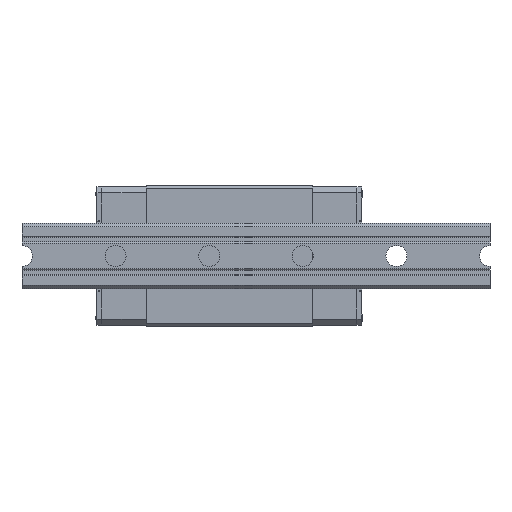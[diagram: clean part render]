
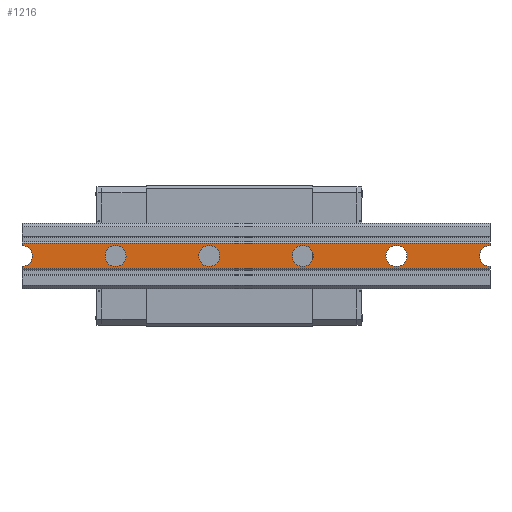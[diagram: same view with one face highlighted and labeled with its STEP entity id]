
A CAD part, front view. The second image highlights one B-rep face of the part: STEP entity #1216.
In plain terms, the highlighted planar face has unit normal (0, -1, 0).
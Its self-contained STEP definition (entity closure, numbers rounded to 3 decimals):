
#1216 = ADVANCED_FACE( '', ( #2585, #2586, #2587, #2588, #2589 ), #2590, .F. );
#2585 = FACE_BOUND( '', #4220, .T. );
#2586 = FACE_BOUND( '', #4221, .T. );
#2587 = FACE_BOUND( '', #4222, .T. );
#2588 = FACE_BOUND( '', #4223, .T. );
#2589 = FACE_OUTER_BOUND( '', #4224, .T. );
#2590 = PLANE( '', #4225 );
#4220 = EDGE_LOOP( '', ( #7210 ) );
#4221 = EDGE_LOOP( '', ( #7211 ) );
#4222 = EDGE_LOOP( '', ( #7212 ) );
#4223 = EDGE_LOOP( '', ( #7213 ) );
#4224 = EDGE_LOOP( '', ( #7214, #7215, #7216, #7217, #7218, #7219, #7220, #7221 ) );
#4225 = AXIS2_PLACEMENT_3D( '', #7222, #7223, #7224 );
#7210 = ORIENTED_EDGE( '', *, *, #10742, .F. );
#7211 = ORIENTED_EDGE( '', *, *, #10336, .F. );
#7212 = ORIENTED_EDGE( '', *, *, #10743, .F. );
#7213 = ORIENTED_EDGE( '', *, *, #10744, .F. );
#7214 = ORIENTED_EDGE( '', *, *, #10745, .F. );
#7215 = ORIENTED_EDGE( '', *, *, #9665, .F. );
#7216 = ORIENTED_EDGE( '', *, *, #10042, .T. );
#7217 = ORIENTED_EDGE( '', *, *, #10746, .T. );
#7218 = ORIENTED_EDGE( '', *, *, #9676, .F. );
#7219 = ORIENTED_EDGE( '', *, *, #9775, .T. );
#7220 = ORIENTED_EDGE( '', *, *, #10747, .F. );
#7221 = ORIENTED_EDGE( '', *, *, #9682, .F. );
#7222 = CARTESIAN_POINT( '', ( 100., 0., 5.5 ) );
#7223 = DIRECTION( '', ( 0., 1., 0. ) );
#7224 = DIRECTION( '', ( 0., 0., 1. ) );
#9665 = EDGE_CURVE( '', #11538, #11540, #11541, .T. );
#9676 = EDGE_CURVE( '', #11558, #11553, #11560, .T. );
#9682 = EDGE_CURVE( '', #11569, #11571, #11572, .T. );
#9775 = EDGE_CURVE( '', #11558, #11739, #11741, .T. );
#10042 = EDGE_CURVE( '', #11538, #12194, #12196, .T. );
#10336 = EDGE_CURVE( '', #12674, #12674, #12675, .T. );
#10742 = EDGE_CURVE( '', #13279, #13279, #13280, .T. );
#10743 = EDGE_CURVE( '', #13281, #13281, #13282, .T. );
#10744 = EDGE_CURVE( '', #13283, #13283, #13284, .T. );
#10745 = EDGE_CURVE( '', #11540, #11569, #13285, .T. );
#10746 = EDGE_CURVE( '', #12194, #11553, #13286, .T. );
#10747 = EDGE_CURVE( '', #11571, #11739, #13287, .T. );
#11538 = VERTEX_POINT( '', #14273 );
#11540 = VERTEX_POINT( '', #14276 );
#11541 = LINE( '', #14277, #14278 );
#11553 = VERTEX_POINT( '', #14295 );
#11558 = VERTEX_POINT( '', #14301 );
#11560 = CIRCLE( '', #14304, 4.5 );
#11569 = VERTEX_POINT( '', #14316 );
#11571 = VERTEX_POINT( '', #14319 );
#11572 = LINE( '', #14320, #14321 );
#11739 = VERTEX_POINT( '', #14560 );
#11741 = LINE( '', #14563, #14564 );
#12194 = VERTEX_POINT( '', #15193 );
#12196 = LINE( '', #15196, #15197 );
#12674 = VERTEX_POINT( '', #15897 );
#12675 = CIRCLE( '', #15898, 4.5 );
#13279 = VERTEX_POINT( '', #16814 );
#13280 = CIRCLE( '', #16815, 4.5 );
#13281 = VERTEX_POINT( '', #16816 );
#13282 = CIRCLE( '', #16817, 4.5 );
#13283 = VERTEX_POINT( '', #16818 );
#13284 = CIRCLE( '', #16819, 4.5 );
#13285 = CIRCLE( '', #16820, 4.5 );
#13286 = LINE( '', #16821, #16822 );
#13287 = LINE( '', #16823, #16824 );
#14273 = CARTESIAN_POINT( '', ( 100., 0., 5.5 ) );
#14276 = CARTESIAN_POINT( '', ( 100., 0., 4.5 ) );
#14277 = CARTESIAN_POINT( '', ( 100., 0., 5.5 ) );
#14278 = VECTOR( '', #17957, 1000. );
#14295 = CARTESIAN_POINT( '', ( -100., 0., 4.5 ) );
#14301 = CARTESIAN_POINT( '', ( -100., 0., -4.5 ) );
#14304 = AXIS2_PLACEMENT_3D( '', #17968, #17969, #17970 );
#14316 = CARTESIAN_POINT( '', ( 100., 0., -4.5 ) );
#14319 = CARTESIAN_POINT( '', ( 100., 0., -5.5 ) );
#14320 = CARTESIAN_POINT( '', ( 100., 0., 5.5 ) );
#14321 = VECTOR( '', #17975, 1000. );
#14560 = CARTESIAN_POINT( '', ( -100., 0., -5.5 ) );
#14563 = CARTESIAN_POINT( '', ( -100., 0., 5.5 ) );
#14564 = VECTOR( '', #18070, 1000. );
#15193 = CARTESIAN_POINT( '', ( -100., 0., 5.5 ) );
#15196 = CARTESIAN_POINT( '', ( 100., 0., 5.5 ) );
#15197 = VECTOR( '', #18367, 1000. );
#15897 = CARTESIAN_POINT( '', ( -20., 0., -4.5 ) );
#15898 = AXIS2_PLACEMENT_3D( '', #18651, #18652, #18653 );
#16814 = CARTESIAN_POINT( '', ( -60., 0., -4.5 ) );
#16815 = AXIS2_PLACEMENT_3D( '', #19030, #19031, #19032 );
#16816 = CARTESIAN_POINT( '', ( 20., 0., -4.5 ) );
#16817 = AXIS2_PLACEMENT_3D( '', #19033, #19034, #19035 );
#16818 = CARTESIAN_POINT( '', ( 60., 0., -4.5 ) );
#16819 = AXIS2_PLACEMENT_3D( '', #19036, #19037, #19038 );
#16820 = AXIS2_PLACEMENT_3D( '', #19039, #19040, #19041 );
#16821 = CARTESIAN_POINT( '', ( -100., 0., 5.5 ) );
#16822 = VECTOR( '', #19042, 1000. );
#16823 = CARTESIAN_POINT( '', ( 100., 0., -5.5 ) );
#16824 = VECTOR( '', #19043, 1000. );
#17957 = DIRECTION( '', ( 0., 0., -1. ) );
#17968 = CARTESIAN_POINT( '', ( -100., 0., 0. ) );
#17969 = DIRECTION( '', ( 0., -1., 0. ) );
#17970 = DIRECTION( '', ( 0., 0., -1. ) );
#17975 = DIRECTION( '', ( 0., 0., -1. ) );
#18070 = DIRECTION( '', ( 0., 0., -1. ) );
#18367 = DIRECTION( '', ( -1., 0., 0. ) );
#18651 = CARTESIAN_POINT( '', ( -20., 0., 0. ) );
#18652 = DIRECTION( '', ( 0., -1., 0. ) );
#18653 = DIRECTION( '', ( 0., 0., -1. ) );
#19030 = CARTESIAN_POINT( '', ( -60., 0., 0. ) );
#19031 = DIRECTION( '', ( 0., -1., 0. ) );
#19032 = DIRECTION( '', ( 0., 0., -1. ) );
#19033 = CARTESIAN_POINT( '', ( 20., 0., 0. ) );
#19034 = DIRECTION( '', ( 0., -1., 0. ) );
#19035 = DIRECTION( '', ( 0., 0., -1. ) );
#19036 = CARTESIAN_POINT( '', ( 60., 0., 0. ) );
#19037 = DIRECTION( '', ( 0., -1., 0. ) );
#19038 = DIRECTION( '', ( 0., 0., -1. ) );
#19039 = CARTESIAN_POINT( '', ( 100., 0., 0. ) );
#19040 = DIRECTION( '', ( 0., -1., 0. ) );
#19041 = DIRECTION( '', ( 0., 0., -1. ) );
#19042 = DIRECTION( '', ( 0., 0., -1. ) );
#19043 = DIRECTION( '', ( -1., 0., 0. ) );
